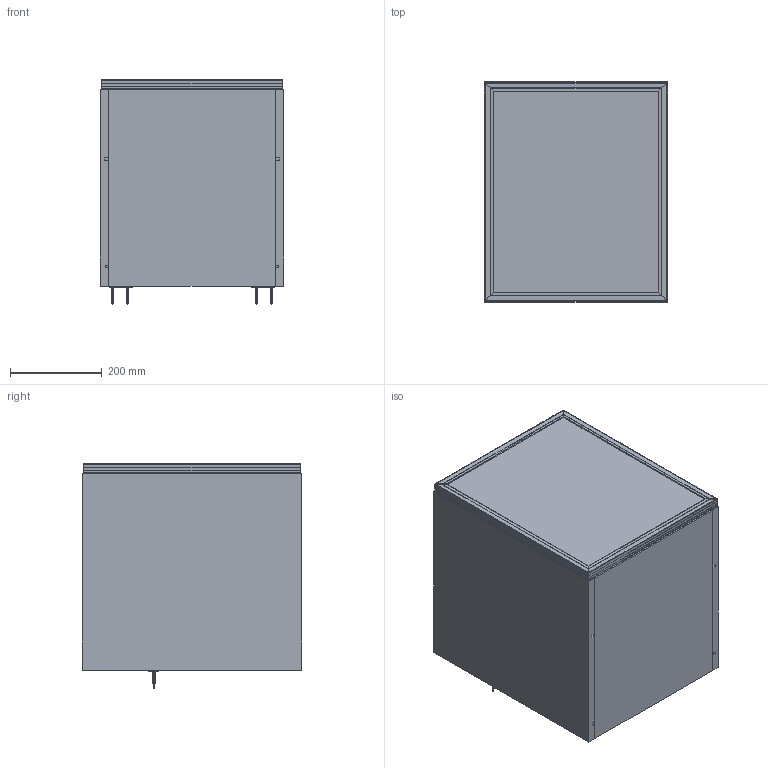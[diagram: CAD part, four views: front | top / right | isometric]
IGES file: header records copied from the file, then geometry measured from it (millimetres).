
Global section: file name: 3D Dosyası,; native system: Autodesk Inventor 2024; preprocessor: unknown; author: pc11; date: 20250709.164124; units: millimetre
Bounding box: 400 x 480 x 489.98 mm (x, y, z)
Volume: 16663332.1 mm3; surface area: 3211552 mm2
Topology: 34 solids, 38 shells, 1712 faces, 4912 edges, 3292 vertices
Faces by surface type: bspline 1712
